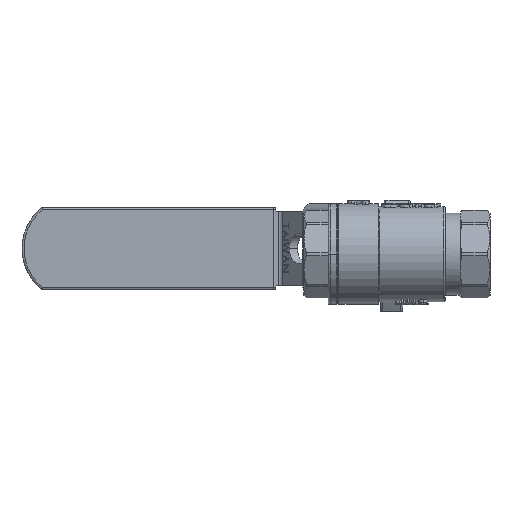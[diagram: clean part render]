
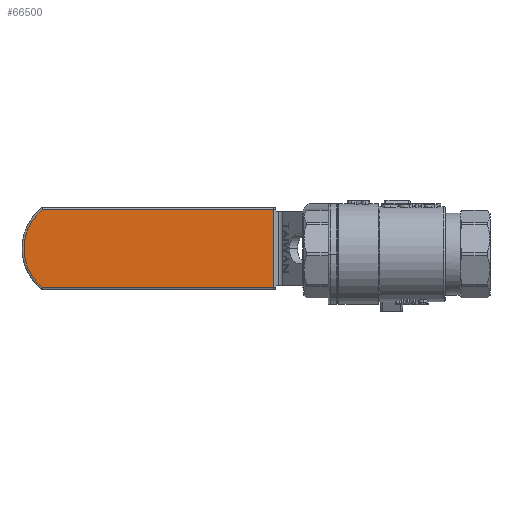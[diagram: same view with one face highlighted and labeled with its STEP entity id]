
A CAD part, front view. The second image highlights one B-rep face of the part: STEP entity #66500.
In plain terms, the highlighted planar face has unit normal (0, -1, 0).
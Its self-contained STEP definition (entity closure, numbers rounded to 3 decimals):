
#507 = DIRECTION ( 'NONE',  ( -1., 0., 0. ) ) ;
#9694 = CARTESIAN_POINT ( 'NONE',  ( -4.515, -4., -10.5 ) ) ;
#12484 = EDGE_CURVE ( 'NONE', #93091, #20919, #106342, .T. ) ;
#14631 = DIRECTION ( 'NONE',  ( 0., 0., -1. ) ) ;
#20919 = VERTEX_POINT ( 'NONE', #75276 ) ;
#21148 = DIRECTION ( 'NONE',  ( -1., 0., 0. ) ) ;
#22408 = DIRECTION ( 'NONE',  ( -1., 0., 0. ) ) ;
#25595 = ORIENTED_EDGE ( 'NONE', *, *, #94627, .T. ) ;
#40480 = VERTEX_POINT ( 'NONE', #115856 ) ;
#41948 = EDGE_CURVE ( 'NONE', #40480, #93091, #106599, .T. ) ;
#43108 = EDGE_LOOP ( 'NONE', ( #124405, #97155, #25595, #71562 ) ) ;
#44997 = EDGE_CURVE ( 'NONE', #124366, #40480, #63979, .T. ) ;
#61366 = PLANE ( 'NONE',  #79599 ) ;
#62563 = CARTESIAN_POINT ( 'NONE',  ( -67.073, -4., -10.5 ) ) ;
#63979 = CIRCLE ( 'NONE', #121956, 13.5 ) ;
#66500 = ADVANCED_FACE ( 'NONE', ( #94531 ), #61366, .F. ) ;
#70802 = DIRECTION ( 'NONE',  ( 0., 1., 0. ) ) ;
#71562 = ORIENTED_EDGE ( 'NONE', *, *, #44997, .T. ) ;
#75276 = CARTESIAN_POINT ( 'NONE',  ( -66.573, -4., -10.5 ) ) ;
#79599 = AXIS2_PLACEMENT_3D ( 'NONE', #109421, #70802, #22408 ) ;
#80206 = VECTOR ( 'NONE', #14631, 1000. ) ;
#81280 = CARTESIAN_POINT ( 'NONE',  ( -66.573, -4., 10.5 ) ) ;
#88158 = VECTOR ( 'NONE', #101654, 1000. ) ;
#89684 = CARTESIAN_POINT ( 'NONE',  ( -67.073, -4., 10.5 ) ) ;
#93091 = VERTEX_POINT ( 'NONE', #81280 ) ;
#94531 = FACE_OUTER_BOUND ( 'NONE', #43108, .T. ) ;
#94627 = EDGE_CURVE ( 'NONE', #20919, #124366, #120388, .T. ) ;
#97155 = ORIENTED_EDGE ( 'NONE', *, *, #12484, .T. ) ;
#99608 = CARTESIAN_POINT ( 'NONE',  ( -13., -4., 0. ) ) ;
#101654 = DIRECTION ( 'NONE',  ( 1., 0., 0. ) ) ;
#106342 = LINE ( 'NONE', #123537, #80206 ) ;
#106599 = LINE ( 'NONE', #89684, #126572 ) ;
#109421 = CARTESIAN_POINT ( 'NONE',  ( -67.073, -4., 10. ) ) ;
#111133 = DIRECTION ( 'NONE',  ( 0., -1., 0. ) ) ;
#115856 = CARTESIAN_POINT ( 'NONE',  ( -4.515, -4., 10.5 ) ) ;
#120388 = LINE ( 'NONE', #62563, #88158 ) ;
#121956 = AXIS2_PLACEMENT_3D ( 'NONE', #99608, #111133, #21148 ) ;
#123537 = CARTESIAN_POINT ( 'NONE',  ( -66.573, -4., 10. ) ) ;
#124366 = VERTEX_POINT ( 'NONE', #9694 ) ;
#124405 = ORIENTED_EDGE ( 'NONE', *, *, #41948, .T. ) ;
#126572 = VECTOR ( 'NONE', #507, 1000. ) ;
